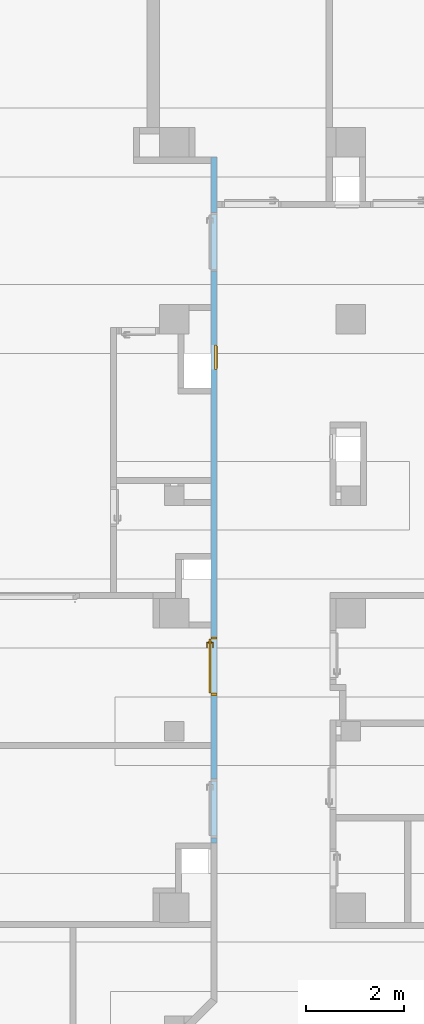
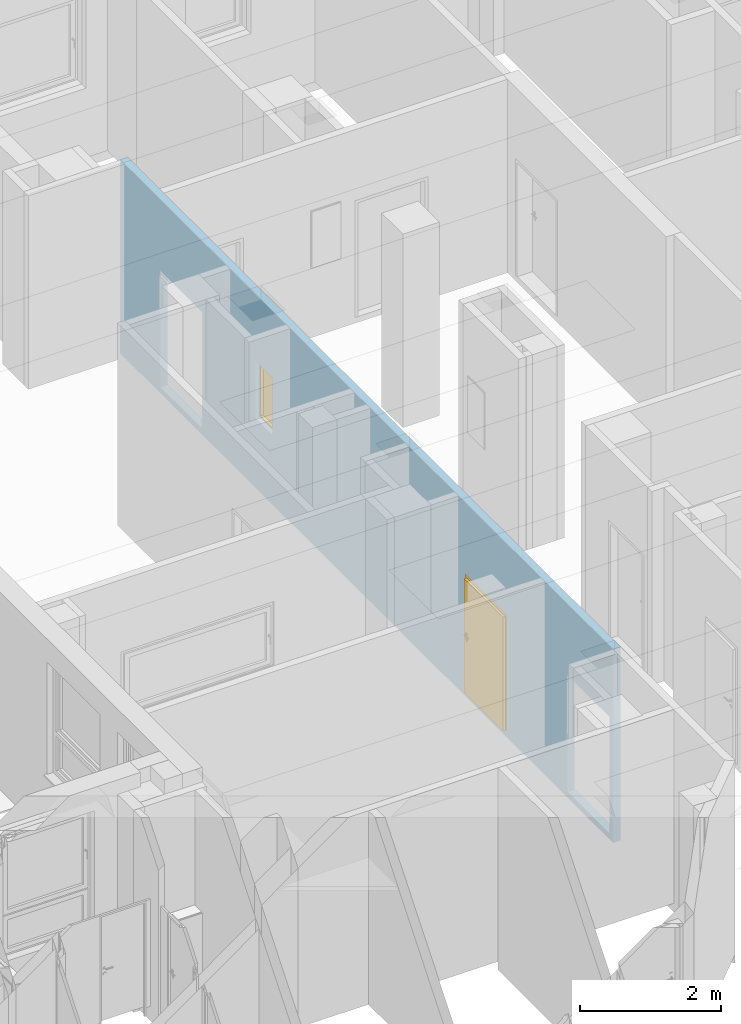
# One storey, part 91 of 140: 1 door, 1 window, 4 openings, plus 1 element that does not belong to this part.
"""IFC4 building model written with IfcOpenShell, lengths in metres."""

import ifcopenshell
import ifcopenshell.guid

model = None  # the IFC model being written
_history = None  # IfcOwnerHistory: only IFC2X3 demands one
_inside = {}  # id of a spatial element -> (the spatial element, [elements in it])
_under = {}  # id of a project, library or spatial element -> (it, [spatial elements below it])
_declared = {}  # id of a project -> (the project, [libraries it declares])
_typed = {}  # id of a type object -> (the type object, [elements of that type])
_made_of = {}  # id of a material, layer set ... -> (it, [elements and type objects made of it])


def new_model(schema):
    """Start an empty IFC model of exactly this schema.

    Asked for "IFC4X3", IfcOpenShell would pick the latest addendum, in which some entities
    have other attributes; the version numbers below select the first issue.
    IFC2X3 requires an IfcOwnerHistory on every rooted entity: one is made here for all.
    """
    global model, _history
    if schema == "IFC4X3":
        model = ifcopenshell.file(schema_version=(4, 3, 0, 0))
    else:
        model = ifcopenshell.file(schema=schema)
    _inside.clear()
    _under.clear()
    _declared.clear()
    _typed.clear()
    _made_of.clear()
    _history = None
    if model.schema == "IFC2X3":
        org = make("IfcOrganization", Name="unknown")
        user = make(
            "IfcPersonAndOrganization",
            ThePerson=make("IfcPerson", FamilyName="unknown"),
            TheOrganization=org,
        )
        app = make(
            "IfcApplication",
            ApplicationDeveloper=org,
            Version="unknown",
            ApplicationFullName="unknown",
            ApplicationIdentifier="unknown",
        )
        _history = make(
            "IfcOwnerHistory",
            OwningUser=user,
            OwningApplication=app,
            ChangeAction="ADDED",
            CreationDate=0,
        )
    return model


def make(cls, **values):
    """One entity of the class cls with the attributes given. An attribute that is None is left unset."""
    return model.create_entity(
        cls, **{name: value for name, value in values.items() if value is not None}
    )


def entity(cls, *values):
    """Any entity or typed value of the class cls, its attributes in the order of the schema. None: left unset."""
    e = model.create_entity(cls)
    for i, value in enumerate(values):
        if value is not None:
            e[i] = value
    return e


def rooted(cls, **values):
    """An entity with a GlobalId (a new one), such as an element, a storey or a relation."""
    return make(cls, GlobalId=ifcopenshell.guid.new(), OwnerHistory=_history, **values)


def si_unit(unit_type, name, prefix=None):
    """IfcSIUnit, for example si_unit("LENGTHUNIT", "METRE", prefix="MILLI")."""
    return make("IfcSIUnit", UnitType=unit_type, Prefix=prefix, Name=name)


def converted_unit(unit_type, name, factor, base, dimensions=None, offset=None):
    """IfcConversionBasedUnit, such as the inch: factor (a typed value) times the base unit."""
    return make(
        "IfcConversionBasedUnit"
        if offset is None
        else "IfcConversionBasedUnitWithOffset",
        ConversionOffset=offset,
        Dimensions=None
        if dimensions is None
        else entity("IfcDimensionalExponents", *dimensions),
        UnitType=unit_type,
        Name=name,
        ConversionFactor=make(
            "IfcMeasureWithUnit", ValueComponent=factor, UnitComponent=base
        ),
    )


def derived_unit(unit_type, elements):
    """IfcDerivedUnit: a product of units, each with its exponent."""
    return make(
        "IfcDerivedUnit",
        Elements=[
            make("IfcDerivedUnitElement", Unit=unit, Exponent=power)
            for unit, power in elements
        ],
        UnitType=unit_type,
    )


def assignment(units):
    """IfcUnitAssignment: the units of a project."""
    return None if units is None else make("IfcUnitAssignment", Units=units)


def point(xyz):
    """IfcCartesianPoint."""
    return None if xyz is None else make("IfcCartesianPoint", Coordinates=xyz)


def direction(xyz):
    """IfcDirection."""
    return None if xyz is None else make("IfcDirection", DirectionRatios=xyz)


def frame(location, z_axis=None, x_axis=None):
    """IfcAxis2Placement3D, a coordinate frame: its origin and axes. An axis left out is left unset."""
    return make(
        "IfcAxis2Placement3D",
        Location=point(location),
        Axis=direction(z_axis),
        RefDirection=direction(x_axis),
    )


def frame_2d(location, x_axis=None):
    """IfcAxis2Placement2D, a coordinate frame in the plane: its origin and x axis."""
    return make(
        "IfcAxis2Placement2D", Location=point(location), RefDirection=direction(x_axis)
    )


def origin():
    """The frame at (0, 0, 0) with its axes left unset."""
    return frame((0.0, 0.0, 0.0))


def origin_with_axes():
    """The frame at (0, 0, 0) with the z axis (0, 0, 1) and the x axis (1, 0, 0) written out."""
    return frame((0.0, 0.0, 0.0), z_axis=(0.0, 0.0, 1.0), x_axis=(1.0, 0.0, 0.0))


def place(relative_to, where):
    """IfcLocalPlacement: puts the frame where relative to a parent placement (None: the world)."""
    return make(
        "IfcLocalPlacement", PlacementRelTo=relative_to, RelativePlacement=where
    )


def context(
    kind, dimensions, precision=None, world=None, true_north=None, identifier=None
):
    """IfcGeometricRepresentationContext, for example the 3D "Model" context."""
    return make(
        "IfcGeometricRepresentationContext",
        ContextIdentifier=identifier,
        ContextType=kind,
        CoordinateSpaceDimension=dimensions,
        Precision=precision,
        WorldCoordinateSystem=world,
        TrueNorth=true_north,
    )


def subcontext(parent, identifier, kind, view, scale=None):
    """IfcGeometricRepresentationSubContext, for example "Body" below "Model"."""
    return make(
        "IfcGeometricRepresentationSubContext",
        ContextIdentifier=identifier,
        ContextType=kind,
        ParentContext=parent,
        TargetScale=scale,
        TargetView=view,
    )


def project(units=None, contexts=None):
    """IfcProject with its units and contexts."""
    return rooted(
        "IfcProject",
        Name="project",
        RepresentationContexts=contexts,
        UnitsInContext=assignment(units),
    )


def spatial(cls, under=None, at=None, **own):
    """A site, building, storey or space (cls), placed at a placement, below another one or the project."""
    s = rooted(cls, ObjectPlacement=at, **own)
    if under is not None:
        _under.setdefault(under.id(), (under, []))[1].append(s)
    return s


def polyline(points):
    """IfcPolyline through the points."""
    return make("IfcPolyline", Points=[point(p) for p in points])


def profile(cls, at=None, kind="AREA", **sizes):
    """A parametric profile (cls). Its sizes go by their IFC names, for example OverallWidth=200.0."""
    return make(cls, ProfileType=kind, Position=at, **sizes)


def rectangle(**sizes):
    """IfcRectangleProfileDef."""
    return profile("IfcRectangleProfileDef", **sizes)


def outline(outer, holes=None, kind="AREA"):
    """IfcArbitraryClosedProfileDef: a profile drawn as a closed curve; with holes, ...WithVoids."""
    if holes is None:
        return make("IfcArbitraryClosedProfileDef", ProfileType=kind, OuterCurve=outer)
    return make(
        "IfcArbitraryProfileDefWithVoids",
        ProfileType=kind,
        OuterCurve=outer,
        InnerCurves=holes,
    )


def extrude(swept, where, along, depth):
    """IfcExtrudedAreaSolid: the profile swept, set in the frame where, extruded along a direction by depth."""
    return make(
        "IfcExtrudedAreaSolid",
        SweptArea=swept,
        Position=where,
        ExtrudedDirection=direction(along),
        Depth=depth,
    )


def faces_of(points, faces, orient=None, outer=None):
    """IfcFace entities. A face is a list of loops; a loop is a list of indices into points, from 0.

    orient and outer hold one flag for each loop. By default every Orientation is true, the
    first loop of a face is its IfcFaceOuterBound and the others are IfcFaceBound.
    """
    made = []
    for i, loops in enumerate(faces):
        bounds = []
        for j, loop in enumerate(loops):
            is_outer = j == 0 if outer is None else outer[i][j]
            bounds.append(
                make(
                    "IfcFaceOuterBound" if is_outer else "IfcFaceBound",
                    Bound=make("IfcPolyLoop", Polygon=[points[k] for k in loop]),
                    Orientation=True if orient is None else orient[i][j],
                )
            )
        made.append(make("IfcFace", Bounds=bounds))
    return made


def closed_shell(faces, orient=None, outer=None):
    """The faces of one IfcClosedShell. faceted_brep and surface_model build it on their shared points."""
    return ("IfcClosedShell", faces, orient, outer)


def open_shell(faces, orient=None, outer=None):
    """The faces of one IfcOpenShell. surface_model builds it on its shared points."""
    return ("IfcOpenShell", faces, orient, outer)


def faceted_brep(points, faces, orient=None, outer=None, voids=None):
    """IfcFacetedBrep: a solid bounded by flat faces; with voids (closed shells), ...WithVoids."""
    shared = [point(p) for p in points]
    hull = make("IfcClosedShell", CfsFaces=faces_of(shared, faces, orient, outer))
    if voids is None:
        return make("IfcFacetedBrep", Outer=hull)
    return make(
        "IfcFacetedBrepWithVoids",
        Outer=hull,
        Voids=[
            make(cls, CfsFaces=faces_of(shared, fs, o, b)) for cls, fs, o, b in voids
        ],
    )


def surface_model(cls, points, shells):
    """IfcFaceBasedSurfaceModel or IfcShellBasedSurfaceModel (cls): surfaces that need not close."""
    shared = [point(p) for p in points]
    made = [make(c, CfsFaces=faces_of(shared, fs, o, b)) for c, fs, o, b in shells]
    if cls == "IfcFaceBasedSurfaceModel":
        return make(cls, FbsmFaces=made)
    return make(cls, SbsmBoundary=made)


def shape(context_of_items, identifier, shape_type, items):
    """IfcShapeRepresentation: the items that make up one representation, for example the "Body"."""
    return make(
        "IfcShapeRepresentation",
        ContextOfItems=context_of_items,
        RepresentationIdentifier=identifier,
        RepresentationType=shape_type,
        Items=items,
    )


def source(mapping_origin, context_of_items, identifier, shape_type, items):
    """IfcRepresentationMap: a shape defined once, which mapped items show again and again."""
    return make(
        "IfcRepresentationMap",
        MappingOrigin=mapping_origin,
        MappedRepresentation=shape(context_of_items, identifier, shape_type, items),
    )


def transform(
    local_origin,
    x_axis=None,
    y_axis=None,
    z_axis=None,
    scale=None,
    scale2=None,
    scale3=None,
    uniform=True,
):
    """IfcCartesianTransformationOperator3D, or its non-uniform kind. x_axis, y_axis, z_axis: its Axis1, 2, 3."""
    if uniform:
        return make(
            "IfcCartesianTransformationOperator3D",
            Axis1=direction(x_axis),
            Axis2=direction(y_axis),
            LocalOrigin=point(local_origin),
            Scale=scale,
            Axis3=direction(z_axis),
        )
    return make(
        "IfcCartesianTransformationOperator3DnonUniform",
        Axis1=direction(x_axis),
        Axis2=direction(y_axis),
        LocalOrigin=point(local_origin),
        Scale=scale,
        Axis3=direction(z_axis),
        Scale2=scale2,
        Scale3=scale3,
    )


def mapped(mapping_source, mapping_target):
    """IfcMappedItem: shows the shape of a source again, moved by a transform."""
    return make(
        "IfcMappedItem", MappingSource=mapping_source, MappingTarget=mapping_target
    )


def material(Name=None, Category=None):
    """IfcMaterial."""
    return make("IfcMaterial", Name=Name, Category=Category)


def layer(
    of_material, thickness, ventilated=None, Name=None, Category=None, Priority=None
):
    """IfcMaterialLayer: one layer of a wall or slab, of a material (None: an air gap)."""
    return make(
        "IfcMaterialLayer",
        Material=of_material,
        LayerThickness=thickness,
        IsVentilated=ventilated,
        Name=Name,
        Category=Category,
        Priority=Priority,
    )


def layer_set(layers, Name=None):
    """IfcMaterialLayerSet."""
    return make("IfcMaterialLayerSet", MaterialLayers=layers, LayerSetName=Name)


def layer_usage(for_layer_set, set_direction, sense, offset, extent=None):
    """IfcMaterialLayerSetUsage: how a layer set lies in its element."""
    return make(
        "IfcMaterialLayerSetUsage",
        ForLayerSet=for_layer_set,
        LayerSetDirection=set_direction,
        DirectionSense=sense,
        OffsetFromReferenceLine=offset,
        ReferenceExtent=extent,
    )


def made_of(thing, what):
    """Note that an element or type object is made of a material, layer set ...; save() writes the relation."""
    if what is not None:
        _made_of.setdefault(what.id(), (what, []))[1].append(thing)
    return thing


def type_object(cls, material=None, **own):
    """A type object (cls), such as IfcWallType, which elements share."""
    return made_of(rooted(cls, **own), material)


def element(
    cls,
    number,
    at=None,
    inside=None,
    cuts=None,
    type_object=None,
    material=None,
    context=None,
    identifier="Body",
    shape_type=None,
    held_by="IfcProductDefinitionShape",
    body=None,
    shapes=None,
    **own,
):
    """One element of the class cls, such as IfcWall. Its Tag is "e" and its number.

    at: its placement. inside: the storey or other place that contains it. cuts: it is an
    opening in that element (IfcRelVoidsElement). A single representation is given by context,
    identifier, shape_type and body (its items); several are given by shapes. held_by: the class
    of the entity that holds the representations. save() writes the other relations.
    """
    e = rooted(cls, Tag="e%d" % number, ObjectPlacement=at, **own)
    if body is not None:
        shapes = [shape(context, identifier, shape_type, body)]
    if shapes is not None:
        e.Representation = make(held_by, Representations=shapes)
    if inside is not None:
        _inside.setdefault(inside.id(), (inside, []))[1].append(e)
    if cuts is not None:
        rooted(
            "IfcRelVoidsElement", RelatingBuildingElement=cuts, RelatedOpeningElement=e
        )
    if type_object is not None:
        _typed.setdefault(type_object.id(), (type_object, []))[1].append(e)
    return made_of(e, material)


def fill(opening, filler):
    """IfcRelFillsElement: the door or window that sits in an opening."""
    return rooted(
        "IfcRelFillsElement",
        RelatingOpeningElement=opening,
        RelatedBuildingElement=filler,
    )


def aggregate(whole, parts):
    """IfcRelAggregates: a whole, such as a stair, and the parts it consists of."""
    return rooted("IfcRelAggregates", RelatingObject=whole, RelatedObjects=parts)


def save(model, path):
    """Write the relations noted so far, then the file.

    IfcRelAggregates (storeys below a building ...), IfcRelContainedInSpatialStructure (elements
    in a storey), IfcRelDefinesByType, IfcRelAssociatesMaterial and IfcRelDeclares: one each for
    every whole, place, type object, material and project.
    """
    for whole, parts in _under.values():
        aggregate(whole, parts)
    for where, things in _inside.values():
        rooted(
            "IfcRelContainedInSpatialStructure",
            RelatedElements=things,
            RelatingStructure=where,
        )
    for kind, things in _typed.values():
        rooted("IfcRelDefinesByType", RelatedObjects=things, RelatingType=kind)
    for what, things in _made_of.values():
        rooted("IfcRelAssociatesMaterial", RelatedObjects=things, RelatingMaterial=what)
    for by, libraries in _declared.values():
        rooted("IfcRelDeclares", RelatingContext=by, RelatedDefinitions=libraries)
    model.write(path)


model = new_model("IFC4")

# Units and contexts
model_context = context("Model", 3, precision=1e-05, world=origin())
body_context = subcontext(model_context, "Body", "Model", "MODEL_VIEW")
ifc_project = project(units=[si_unit("LENGTHUNIT", "METRE"), si_unit("AREAUNIT", "SQUARE_METRE"), si_unit("VOLUMEUNIT", "CUBIC_METRE"), si_unit("MASSUNIT", "GRAM", prefix="KILO"), converted_unit("PLANEANGLEUNIT", "DEGREE", entity("IfcPlaneAngleMeasure", 0.0174532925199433), si_unit("PLANEANGLEUNIT", "RADIAN"), dimensions=[0, 0, 0, 0, 0, 0, 0]), derived_unit("THERMALTRANSMITTANCEUNIT", [(si_unit("POWERUNIT", "WATT"), 1), (si_unit("THERMODYNAMICTEMPERATUREUNIT", "KELVIN"), -1), (si_unit("LENGTHUNIT", "METRE"), -2)]), derived_unit("VOLUMETRICFLOWRATEUNIT", [(si_unit("LENGTHUNIT", "METRE"), 3), (converted_unit("TIMEUNIT", "hour", entity("IfcTimeMeasure", 3600.0), si_unit("TIMEUNIT", "SECOND"), dimensions=[0, 0, 1, 0, 0, 0, 0]), -1), (si_unit("LENGTHUNIT", "METRE"), -1)])], contexts=[model_context])

# Site, building, storey
site_placement = place(None, origin())
site = spatial("IfcSite", under=ifc_project, at=site_placement, Name="3. ASŘ", CompositionType="ELEMENT")
building_placement = place(site_placement, origin())
building = spatial("IfcBuilding", under=site, at=building_placement, Name="Pavilon C", CompositionType="ELEMENT")
storey_placement = place(building_placement, origin())
storey = spatial("IfcBuildingStorey", under=building, at=storey_placement, Name="Půdorys 1.NP", CompositionType="ELEMENT", Elevation=0.0)

# Wall, openings, door, window
ifc_material = material(Name="ZDIVO Z CDm")
ifc_layer = layer(ifc_material, 0.125)
ifc_layer_set = layer_set([ifc_layer])
ifc_layer_usage = layer_usage(ifc_layer_set, "AXIS2", "POSITIVE", 0.0)
wall_placement = place(storey_placement, frame((31.5, 28.5, -0.1), z_axis=(0.0, 0.0, 1.0), x_axis=(0.0, -1.0, 0.0)))
wall = element("IfcWall", 1, at=wall_placement, inside=storey, material=ifc_layer_usage, Name="ZDIVO Z CDm", context=body_context, shape_type="SweptSolid", body=[
    extrude(rectangle(XDim=13.975, YDim=0.125, at=frame_2d((6.9875, 0.0625), x_axis=(1.0, 0.0))), origin_with_axes(), (0.0, 0.0, 1.0), 3.35),
])
opening_1_placement = place(wall_placement, frame((12.675, 0.0, 0.1), z_axis=(0.0, 1.0, 0.0), x_axis=(0.0, 0.0, 1.0)))
element("IfcOpeningElement", 2, at=opening_1_placement, cuts=wall, Name="Dveřní otvor", ObjectType="Opening", context=body_context, shape_type="SweptSolid", body=[
    extrude(outline(polyline([(0.0, 1.2), (2.02, 1.2), (2.02, 0.0), (0.0, 0.0), (0.0, 1.2)])), origin_with_axes(), (0.0, 0.0, 1.0), 0.125),
])
opening_2_placement = place(wall_placement, frame((10.975, 0.125, 0.1), z_axis=(0.0, -1.0, 0.0), x_axis=(0.0, 0.0, 1.0)))
opening_2 = element("IfcOpeningElement", 3, at=opening_2_placement, cuts=wall, Name="Dveřní otvor", ObjectType="Opening", context=body_context, shape_type="SweptSolid", body=[
    extrude(outline(polyline([(0.0, 1.2), (2.02, 1.2), (2.02, 0.0), (0.0, 0.0), (0.0, 1.2)])), origin_with_axes(), (0.0, 0.0, 1.0), 0.125),
])
opening_3_placement = place(wall_placement, frame((1.12500000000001, 0.0, 0.1), z_axis=(0.0, 1.0, 0.0), x_axis=(0.0, 0.0, 1.0)))
element("IfcOpeningElement", 4, at=opening_3_placement, cuts=wall, Name="Dveřní otvor", ObjectType="Opening", context=body_context, shape_type="SweptSolid", body=[
    extrude(outline(polyline([(0.0, 1.2), (2.02, 1.2), (2.02, 0.0), (0.0, 0.0), (0.0, 1.2)])), origin_with_axes(), (0.0, 0.0, 1.0), 0.125),
])
opening_4_placement = place(wall_placement, frame((4.32500000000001, 0.125, 1.2), z_axis=(0.0, -1.0, 0.0), x_axis=(0.0, 0.0, 1.0)))
opening_4 = element("IfcOpeningElement", 5, at=opening_4_placement, cuts=wall, Name="Okenní otvor", ObjectType="Opening", context=body_context, shape_type="SweptSolid", body=[
    extrude(outline(polyline([(0.0, 0.5), (1.0, 0.5), (1.0, 0.0), (0.0, 0.0), (0.0, 0.5)])), origin_with_axes(), (0.0, 0.0, 1.0), 0.125),
])
door_type = type_object("IfcDoorType", Name="D101", OperationType="NOTDEFINED", ParameterTakesPrecedence=False, PredefinedType="DOOR")
shared_shape_1 = source(origin_with_axes(), body_context, "Body", "SurfaceModel", [
    surface_model("IfcShellBasedSurfaceModel", [(0.0, 0.125, 2.02), (0.0, 0.125, -7.65404249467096e-18), (0.05, 0.125, -7.65404249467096e-18), (0.05, 0.125, 2.02), (0.0, 0.0, 7.65404249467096e-18), (0.0, 2.41584530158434e-16, 2.02), (0.05, 2.41584530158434e-16, 2.02), (0.05, 0.0, 7.65404249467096e-18)], [closed_shell([[[0, 1, 2, 3]], [[4, 5, 6, 7]], [[1, 0, 5, 4]], [[2, 1, 4, 7]], [[3, 2, 7, 6]], [[0, 3, 6, 5]]], orient=[[False], [False], [False], [False], [False], [False]])]),
    surface_model("IfcShellBasedSurfaceModel", [(1.15, 0.125, 2.02), (1.15, 0.125, -7.65404249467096e-18), (1.2, 0.125, -7.65404249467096e-18), (1.2, 0.125, 2.02), (1.15, 0.0, 7.65404249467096e-18), (1.15, 2.41584530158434e-16, 2.02), (1.2, 2.41584530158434e-16, 2.02), (1.2, 0.0, 7.65404249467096e-18)], [closed_shell([[[0, 1, 2, 3]], [[4, 5, 6, 7]], [[1, 0, 5, 4]], [[2, 1, 4, 7]], [[3, 2, 7, 6]], [[0, 3, 6, 5]]], orient=[[False], [False], [False], [False], [False], [False]])]),
    surface_model("IfcShellBasedSurfaceModel", [(0.05, 0.125, 2.02), (0.05, 0.125, 1.97), (1.15, 0.125, 1.97), (1.15, 0.125, 2.02), (0.05, 2.41584530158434e-16, 1.97), (0.05, 2.41584530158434e-16, 2.02), (1.15, 2.41584530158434e-16, 2.02), (1.15, 2.41584530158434e-16, 1.97)], [closed_shell([[[0, 1, 2, 3]], [[4, 5, 6, 7]], [[1, 0, 5, 4]], [[2, 1, 4, 7]], [[3, 2, 7, 6]], [[0, 3, 6, 5]]], orient=[[False], [False], [False], [False], [False], [False]])]),
    surface_model("IfcShellBasedSurfaceModel", [(0.05, 0.165, 1.97), (0.05, 0.165, -1.25526296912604e-17), (1.15, 0.165, -1.25526296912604e-17), (1.15, 0.165, 1.97), (0.05, 0.125, -7.65404249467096e-18), (0.05, 0.125, 1.97), (1.15, 0.125, 1.97), (1.15, 0.125, -7.65404249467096e-18)], [closed_shell([[[0, 1, 2, 3]], [[4, 5, 6, 7]], [[1, 0, 5, 4]], [[2, 1, 4, 7]], [[3, 2, 7, 6]], [[0, 3, 6, 5]]], orient=[[False], [False], [False], [False], [False], [False]])]),
    surface_model("IfcShellBasedSurfaceModel", [(1.10881569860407, 0.125, 0.93625), (1.1125, 0.125, 0.95), (1.10881569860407, 0.125, 0.96375), (1.09875, 0.125, 0.973815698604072), (1.085, 0.125, 0.9775), (1.07125, 0.125, 0.973815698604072), (1.06118430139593, 0.125, 0.96375), (1.0575, 0.125, 0.95), (1.06118430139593, 0.125, 0.93625), (1.07125, 0.125, 0.926184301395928), (1.085, 0.125, 0.9225), (1.09875, 0.125, 0.926184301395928), (1.1125, 0.1125, 0.95), (1.10881569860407, 0.1125, 0.93625), (1.09875, 0.1125, 0.926184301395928), (1.085, 0.1125, 0.9225), (1.07125, 0.1125, 0.926184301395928), (1.06118430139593, 0.1125, 0.93625), (1.0575, 0.1125, 0.95), (1.06118430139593, 0.1125, 0.96375), (1.07125, 0.1125, 0.973815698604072), (1.085, 0.1125, 0.9775), (1.09875, 0.1125, 0.973815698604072), (1.10881569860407, 0.1125, 0.96375)], [closed_shell([[[0, 1, 2, 3, 4, 5, 6, 7, 8, 9, 10, 11]], [[12, 13, 14, 15, 16, 17, 18, 19, 20, 21, 22, 23]], [[1, 0, 13, 12]], [[2, 1, 12, 23]], [[3, 2, 23, 22]], [[4, 3, 22, 21]], [[5, 4, 21, 20]], [[6, 5, 20, 19]], [[7, 6, 19, 18]], [[8, 7, 18, 17]], [[9, 8, 17, 16]], [[10, 9, 16, 15]], [[11, 10, 15, 14]], [[0, 11, 14, 13]]], orient=[[False], [False], [False], [False], [False], [False], [False], [False], [False], [False], [False], [False], [False], [False]])]),
    surface_model("IfcShellBasedSurfaceModel", [(1.10881569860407, 0.125, 1.03625), (1.1125, 0.125, 1.05), (1.10881569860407, 0.125, 1.06375), (1.09875, 0.125, 1.07381569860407), (1.085, 0.125, 1.0775), (1.07125, 0.125, 1.07381569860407), (1.06118430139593, 0.125, 1.06375), (1.0575, 0.125, 1.05), (1.06118430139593, 0.125, 1.03625), (1.07125, 0.125, 1.02618430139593), (1.085, 0.125, 1.0225), (1.09875, 0.125, 1.02618430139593), (1.1125, 0.1125, 1.05), (1.10881569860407, 0.1125, 1.03625), (1.09875, 0.1125, 1.02618430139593), (1.085, 0.1125, 1.0225), (1.07125, 0.1125, 1.02618430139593), (1.06118430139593, 0.1125, 1.03625), (1.0575, 0.1125, 1.05), (1.06118430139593, 0.1125, 1.06375), (1.07125, 0.1125, 1.07381569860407), (1.085, 0.1125, 1.0775), (1.09875, 0.1125, 1.07381569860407), (1.10881569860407, 0.1125, 1.06375)], [closed_shell([[[0, 1, 2, 3, 4, 5, 6, 7, 8, 9, 10, 11]], [[12, 13, 14, 15, 16, 17, 18, 19, 20, 21, 22, 23]], [[1, 0, 13, 12]], [[2, 1, 12, 23]], [[3, 2, 23, 22]], [[4, 3, 22, 21]], [[5, 4, 21, 20]], [[6, 5, 20, 19]], [[7, 6, 19, 18]], [[8, 7, 18, 17]], [[9, 8, 17, 16]], [[10, 9, 16, 15]], [[11, 10, 15, 14]], [[0, 11, 14, 13]]], orient=[[False], [False], [False], [False], [False], [False], [False], [False], [False], [False], [False], [False], [False], [False]])]),
    surface_model("IfcShellBasedSurfaceModel", [(1.085, 0.125, 1.06), (1.08, 0.125, 1.05866025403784), (1.07633974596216, 0.125, 1.055), (1.075, 0.125, 1.05), (1.07633974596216, 0.125, 1.045), (1.08, 0.125, 1.04133974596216), (1.085, 0.125, 1.04), (1.09, 0.125, 1.04133974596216), (1.09366025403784, 0.125, 1.045), (1.095, 0.125, 1.05), (1.09366025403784, 0.125, 1.055), (1.09, 0.125, 1.05866025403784), (1.09, 0.0800000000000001, 1.05866025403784), (1.085, 0.0850000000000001, 1.06), (1.09366025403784, 0.0763397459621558, 1.055), (1.095, 0.0750000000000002, 1.05), (1.09366025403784, 0.0763397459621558, 1.045), (1.09, 0.0800000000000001, 1.04133974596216), (1.085, 0.0850000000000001, 1.04), (1.08, 0.0900000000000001, 1.04133974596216), (1.07633974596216, 0.0936602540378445, 1.045), (1.075, 0.0950000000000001, 1.05), (1.07633974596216, 0.0936602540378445, 1.055), (1.08, 0.0900000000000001, 1.05866025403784), (0.97, 0.0800000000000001, 1.05866025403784), (0.97, 0.0850000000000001, 1.06), (0.97, 0.0763397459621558, 1.055), (0.97, 0.0750000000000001, 1.05), (0.97, 0.0763397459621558, 1.045), (0.97, 0.0800000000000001, 1.04133974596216), (0.97, 0.0850000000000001, 1.04), (0.97, 0.0900000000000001, 1.04133974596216), (0.97, 0.0936602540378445, 1.045), (0.97, 0.0950000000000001, 1.05), (0.97, 0.0936602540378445, 1.055), (0.97, 0.0900000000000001, 1.05866025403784)], [open_shell([[[0, 1, 2, 3, 4, 5, 6, 7, 8, 9, 10, 11]], [[0, 11, 12, 13]], [[11, 10, 14, 12]], [[10, 9, 15, 14]], [[9, 8, 16, 15]], [[8, 7, 17, 16]], [[7, 6, 18, 17]], [[6, 5, 19, 18]], [[5, 4, 20, 19]], [[4, 3, 21, 20]], [[3, 2, 22, 21]], [[2, 1, 23, 22]], [[1, 0, 13, 23]], [[13, 12, 24, 25]], [[12, 14, 26, 24]], [[14, 15, 27, 26]], [[15, 16, 28, 27]], [[16, 17, 29, 28]], [[17, 18, 30, 29]], [[18, 19, 31, 30]], [[19, 20, 32, 31]], [[20, 21, 33, 32]], [[21, 22, 34, 33]], [[22, 23, 35, 34]], [[23, 13, 25, 35]]], orient=[[False], [False], [False], [False], [False], [False], [False], [False], [False], [False], [False], [False], [False], [False], [False], [False], [False], [False], [False], [False], [False], [False], [False], [False], [False]])]),
    surface_model("IfcShellBasedSurfaceModel", [(1.10881569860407, 0.165, 0.93625), (1.09875, 0.165, 0.926184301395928), (1.085, 0.165, 0.9225), (1.07125, 0.165, 0.926184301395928), (1.06118430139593, 0.165, 0.93625), (1.0575, 0.165, 0.95), (1.06118430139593, 0.165, 0.96375), (1.07125, 0.165, 0.973815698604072), (1.085, 0.165, 0.9775), (1.09875, 0.165, 0.973815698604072), (1.10881569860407, 0.165, 0.96375), (1.1125, 0.165, 0.95), (1.1125, 0.1775, 0.95), (1.10881569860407, 0.1775, 0.96375), (1.09875, 0.1775, 0.973815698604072), (1.085, 0.1775, 0.9775), (1.07125, 0.1775, 0.973815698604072), (1.06118430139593, 0.1775, 0.96375), (1.0575, 0.1775, 0.95), (1.06118430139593, 0.1775, 0.93625), (1.07125, 0.1775, 0.926184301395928), (1.085, 0.1775, 0.9225), (1.09875, 0.1775, 0.926184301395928), (1.10881569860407, 0.1775, 0.93625)], [closed_shell([[[0, 1, 2, 3, 4, 5, 6, 7, 8, 9, 10, 11]], [[12, 13, 14, 15, 16, 17, 18, 19, 20, 21, 22, 23]], [[11, 12, 23, 0]], [[10, 13, 12, 11]], [[9, 14, 13, 10]], [[8, 15, 14, 9]], [[7, 16, 15, 8]], [[6, 17, 16, 7]], [[5, 18, 17, 6]], [[4, 19, 18, 5]], [[3, 20, 19, 4]], [[2, 21, 20, 3]], [[1, 22, 21, 2]], [[0, 23, 22, 1]]], orient=[[False], [False], [False], [False], [False], [False], [False], [False], [False], [False], [False], [False], [False], [False]])]),
    surface_model("IfcShellBasedSurfaceModel", [(1.10881569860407, 0.165, 1.03625), (1.09875, 0.165, 1.02618430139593), (1.085, 0.165, 1.0225), (1.07125, 0.165, 1.02618430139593), (1.06118430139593, 0.165, 1.03625), (1.0575, 0.165, 1.05), (1.06118430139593, 0.165, 1.06375), (1.07125, 0.165, 1.07381569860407), (1.085, 0.165, 1.0775), (1.09875, 0.165, 1.07381569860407), (1.10881569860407, 0.165, 1.06375), (1.1125, 0.165, 1.05), (1.1125, 0.1775, 1.05), (1.10881569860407, 0.1775, 1.06375), (1.09875, 0.1775, 1.07381569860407), (1.085, 0.1775, 1.0775), (1.07125, 0.1775, 1.07381569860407), (1.06118430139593, 0.1775, 1.06375), (1.0575, 0.1775, 1.05), (1.06118430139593, 0.1775, 1.03625), (1.07125, 0.1775, 1.02618430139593), (1.085, 0.1775, 1.0225), (1.09875, 0.1775, 1.02618430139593), (1.10881569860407, 0.1775, 1.03625)], [closed_shell([[[0, 1, 2, 3, 4, 5, 6, 7, 8, 9, 10, 11]], [[12, 13, 14, 15, 16, 17, 18, 19, 20, 21, 22, 23]], [[11, 12, 23, 0]], [[10, 13, 12, 11]], [[9, 14, 13, 10]], [[8, 15, 14, 9]], [[7, 16, 15, 8]], [[6, 17, 16, 7]], [[5, 18, 17, 6]], [[4, 19, 18, 5]], [[3, 20, 19, 4]], [[2, 21, 20, 3]], [[1, 22, 21, 2]], [[0, 23, 22, 1]]], orient=[[False], [False], [False], [False], [False], [False], [False], [False], [False], [False], [False], [False], [False], [False]])]),
    surface_model("IfcShellBasedSurfaceModel", [(1.085, 0.165, 1.06), (1.09, 0.165, 1.05866025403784), (1.09366025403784, 0.165, 1.055), (1.095, 0.165, 1.05), (1.09366025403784, 0.165, 1.045), (1.09, 0.165, 1.04133974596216), (1.085, 0.165, 1.04), (1.08, 0.165, 1.04133974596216), (1.07633974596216, 0.165, 1.045), (1.075, 0.165, 1.05), (1.07633974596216, 0.165, 1.055), (1.08, 0.165, 1.05866025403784), (1.085, 0.205, 1.06), (1.09, 0.21, 1.05866025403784), (1.09366025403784, 0.213660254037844, 1.055), (1.095, 0.215, 1.05), (1.09366025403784, 0.213660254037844, 1.045), (1.09, 0.21, 1.04133974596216), (1.085, 0.205, 1.04), (1.08, 0.2, 1.04133974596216), (1.07633974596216, 0.196339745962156, 1.045), (1.075, 0.195, 1.05), (1.07633974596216, 0.196339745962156, 1.055), (1.08, 0.2, 1.05866025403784), (0.97, 0.205, 1.06), (0.97, 0.21, 1.05866025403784), (0.97, 0.213660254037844, 1.055), (0.97, 0.215, 1.05), (0.97, 0.213660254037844, 1.045), (0.97, 0.21, 1.04133974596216), (0.97, 0.205, 1.04), (0.97, 0.2, 1.04133974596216), (0.97, 0.196339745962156, 1.045), (0.97, 0.195, 1.05), (0.97, 0.196339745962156, 1.055), (0.97, 0.2, 1.05866025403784)], [open_shell([[[0, 1, 2, 3, 4, 5, 6, 7, 8, 9, 10, 11]], [[0, 12, 13, 1]], [[1, 13, 14, 2]], [[2, 14, 15, 3]], [[3, 15, 16, 4]], [[4, 16, 17, 5]], [[5, 17, 18, 6]], [[6, 18, 19, 7]], [[7, 19, 20, 8]], [[8, 20, 21, 9]], [[9, 21, 22, 10]], [[10, 22, 23, 11]], [[11, 23, 12, 0]], [[12, 24, 25, 13]], [[13, 25, 26, 14]], [[14, 26, 27, 15]], [[15, 27, 28, 16]], [[16, 28, 29, 17]], [[17, 29, 30, 18]], [[18, 30, 31, 19]], [[19, 31, 32, 20]], [[20, 32, 33, 21]], [[21, 33, 34, 22]], [[22, 34, 35, 23]], [[23, 35, 24, 12]]], orient=[[False], [False], [False], [False], [False], [False], [False], [False], [False], [False], [False], [False], [False], [False], [False], [False], [False], [False], [False], [False], [False], [False], [False], [False], [False]])]),
])
door_placement = place(opening_2_placement, frame((0.0, -7.27595761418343e-15, 7.27595761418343e-15), z_axis=(1.0, 0.0, 0.0), x_axis=(0.0, 1.0, -1.22464679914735e-16)))
door = element("IfcDoor", 6, at=door_placement, inside=storey, type_object=door_type, Name="D101", OverallHeight=2.02, OverallWidth=1.2, context=body_context, shape_type="MappedRepresentation", body=[
    mapped(shared_shape_1, transform((0.0, 0.0, 0.0), x_axis=(1.0, 0.0, 0.0), y_axis=(0.0, 1.0, 0.0), z_axis=(0.0, 0.0, 1.0), scale=1.0)),
])
fill(opening_2, door)
shared_shape_2 = source(origin_with_axes(), body_context, "Body", "Brep", [
    faceted_brep([(0.0, 0.0600000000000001, 1.0), (0.0, 0.06, 4.91096680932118e-19), (0.02, 0.06, 4.91096680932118e-19), (0.02, 0.0600000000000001, 1.0), (0.0, 0.01, 6.61433067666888e-18), (0.0, 0.0100000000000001, 1.0), (0.02, 0.0100000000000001, 1.0), (0.02, 0.01, 6.61433067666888e-18)], [[[0, 1, 2, 3]], [[4, 5, 6, 7]], [[1, 0, 5, 4]], [[2, 1, 4, 7]], [[3, 2, 7, 6]], [[0, 3, 6, 5]]], orient=[[False], [False], [False], [False], [False], [False]]),
    faceted_brep([(0.48, 0.0600000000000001, 1.0), (0.48, 0.06, 4.91096680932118e-19), (0.5, 0.06, 4.91096680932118e-19), (0.5, 0.0600000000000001, 1.0), (0.48, 0.01, 6.61433067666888e-18), (0.48, 0.0100000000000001, 1.0), (0.5, 0.0100000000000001, 1.0), (0.5, 0.01, 6.61433067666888e-18)], [[[0, 1, 2, 3]], [[4, 5, 6, 7]], [[1, 0, 5, 4]], [[2, 1, 4, 7]], [[3, 2, 7, 6]], [[0, 3, 6, 5]]], orient=[[False], [False], [False], [False], [False], [False]]),
    faceted_brep([(0.02, 0.06, 0.02), (0.02, 0.06, 4.91096680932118e-19), (0.48, 0.06, 4.91096680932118e-19), (0.48, 0.06, 0.02), (0.02, 0.01, 6.61433067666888e-18), (0.02, 0.01, 0.02), (0.48, 0.01, 0.02), (0.48, 0.01, 6.61433067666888e-18)], [[[0, 1, 2, 3]], [[4, 5, 6, 7]], [[1, 0, 5, 4]], [[2, 1, 4, 7]], [[3, 2, 7, 6]], [[0, 3, 6, 5]]], orient=[[False], [False], [False], [False], [False], [False]]),
    faceted_brep([(0.02, 0.0600000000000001, 1.0), (0.02, 0.0600000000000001, 0.98), (0.48, 0.0600000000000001, 0.98), (0.48, 0.0600000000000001, 1.0), (0.02, 0.0100000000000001, 0.98), (0.02, 0.0100000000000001, 1.0), (0.48, 0.0100000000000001, 1.0), (0.48, 0.0100000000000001, 0.98)], [[[0, 1, 2, 3]], [[4, 5, 6, 7]], [[1, 0, 5, 4]], [[2, 1, 4, 7]], [[3, 2, 7, 6]], [[0, 3, 6, 5]]], orient=[[False], [False], [False], [False], [False], [False]]),
    faceted_brep([(0.02, 0.0100000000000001, 0.98), (0.02, 0.01, 0.02), (0.48, 0.01, 0.02), (0.48, 0.0100000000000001, 0.98), (0.02, 0.0, 0.02), (0.02, 1.17239551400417e-16, 0.98), (0.48, 1.17239551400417e-16, 0.98), (0.48, 0.0, 0.02)], [[[0, 1, 2, 3]], [[4, 5, 6, 7]], [[1, 0, 5, 4]], [[2, 1, 4, 7]], [[3, 2, 7, 6]], [[0, 3, 6, 5]]], orient=[[False], [False], [False], [False], [False], [False]]),
])
window_placement = place(opening_4_placement, frame((0.0, 0.499999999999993, -0.00999999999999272), z_axis=(1.0, 0.0, 0.0), x_axis=(0.0, -1.0, 1.22464679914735e-16)))
window = element("IfcWindow", 7, at=window_placement, inside=storey, Name="O01", OverallHeight=1.0, OverallWidth=0.5, PartitioningType="USERDEFINED", PredefinedType="WINDOW", context=body_context, shape_type="MappedRepresentation", body=[
    mapped(shared_shape_2, transform((0.0, 0.0, 0.0), x_axis=(1.0, 0.0, 0.0), y_axis=(0.0, -1.0, 0.0), z_axis=(0.0, 0.0, 1.0), scale=1.0)),
])
fill(opening_4, window)

save(model, "model.ifc")
